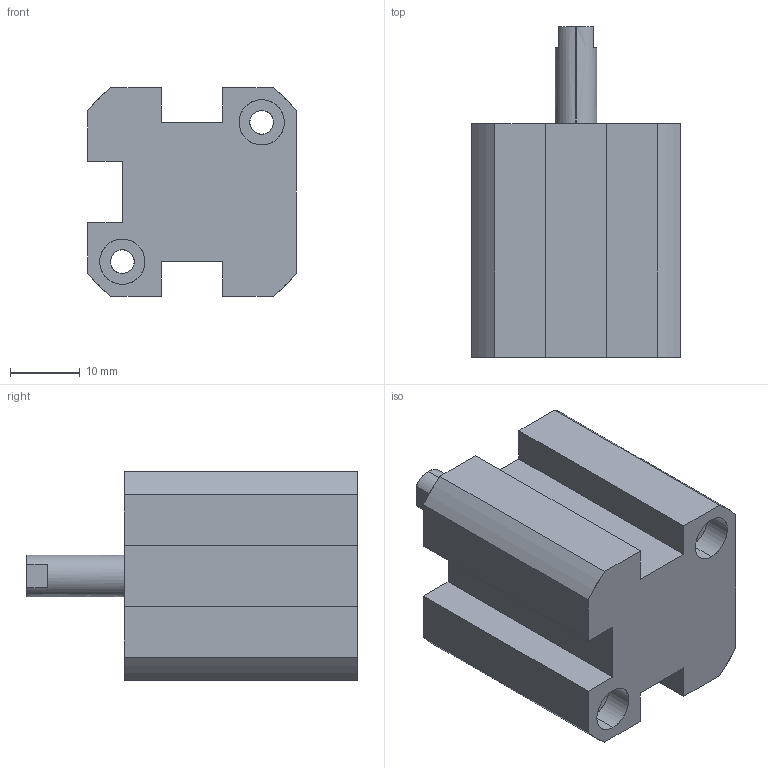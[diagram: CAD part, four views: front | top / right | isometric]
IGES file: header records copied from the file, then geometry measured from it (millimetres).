
Start section: SolidWorks IGES file using analytic representation for surfaces
Global section: file name: C:\Users\Toshiba\Desktop\XC#0-16D-10.IGS; native system: SolidWorks 2014; preprocessor: SolidWorks 2014; author: Toshiba; date: 160523.145147; units: millimetre
Bounding box: 30 x 47.5 x 30 mm (x, y, z)
Surface area: 7761.2 mm2 (no closed solid volume)
Topology: 0 solids, 0 shells, 73 faces, 1123 edges, 1119 vertices
Faces by surface type: revolution 41, bspline 32
